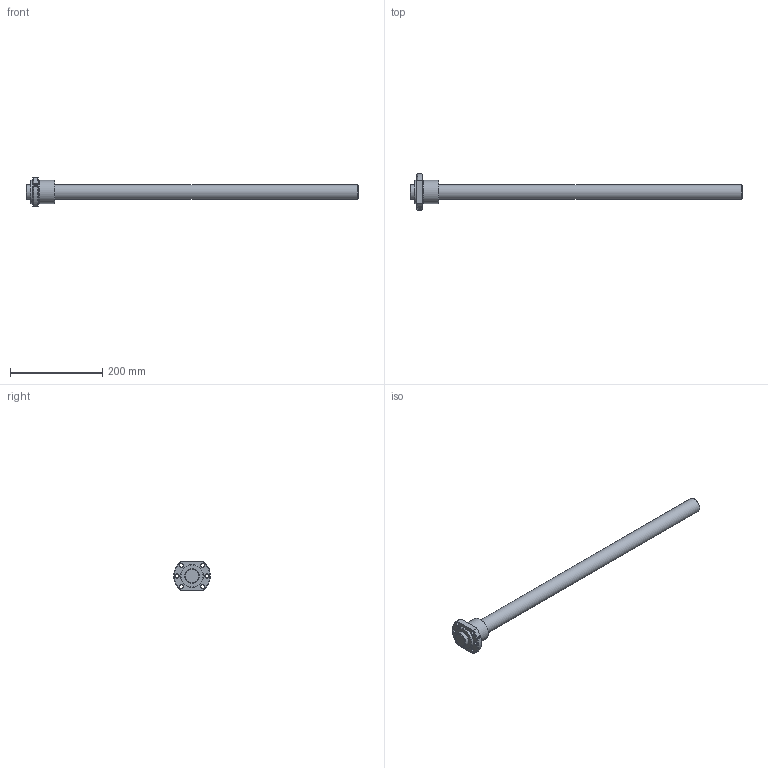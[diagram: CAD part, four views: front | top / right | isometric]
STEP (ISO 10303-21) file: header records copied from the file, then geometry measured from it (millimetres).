
FILE_DESCRIPTION(/* description */ ('STEP AP214'),/* implementation_level */ '2;1');
FILE_NAME(/* name */ 'EBB3205-3RRG0+720LC0-ebb2(648G000)-ebb2',/* time_stamp */ '2023-08-03T12:40:06+02:00',/* author */ ('License CC BY-ND 4.0'),/* organization */ ('CADENAS'),/* preprocessor_version */ 'ST-DEVELOPER v19.3',/* originating_system */ 'PARTsolutions',/* authorisation */ ' ');
FILE_SCHEMA (('AUTOMOTIVE_DESIGN {1 0 10303 214 3 1 1}'));
Length unit declared in the file: millimetre
Products named in the file (3): EBB3205-3RRG0+720LC0-ebb2(648G000)-ebb2; EBB 3205-3RR Nut2; EBB 3205-36480 Shaft2
Assembly tree (2 placements, depth 2):
  EBB3205-3RRG0+720LC0-ebb2(648G000)-ebb2
    EBB 3205-3RR Nut2
    EBB 3205-36480 Shaft2
Bounding box: 720 x 79.74 x 62 mm (x, y, z)
Volume: 662300.1 mm3; surface area: 97066.6 mm2
Topology: 2 solids, 2 shells, 32 faces, 72 edges, 47 vertices
Faces by surface type: cylinder 14, cone 9, plane 9
Full cylindrical faces by diameter (mm): 4.917 x1, 9 x6, 32 x2, 47 x1, 50 x2
Entity records: 935 total; most frequent: CARTESIAN_POINT 177, DIRECTION 148, ORIENTED_EDGE 106, AXIS2_PLACEMENT_3D 70, EDGE_LOOP 68, FACE_BOUND 68, EDGE_CURVE 53, VERTEX_POINT 45
